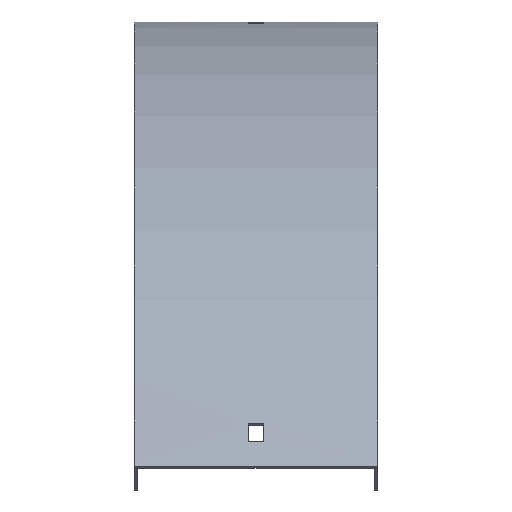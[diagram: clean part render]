
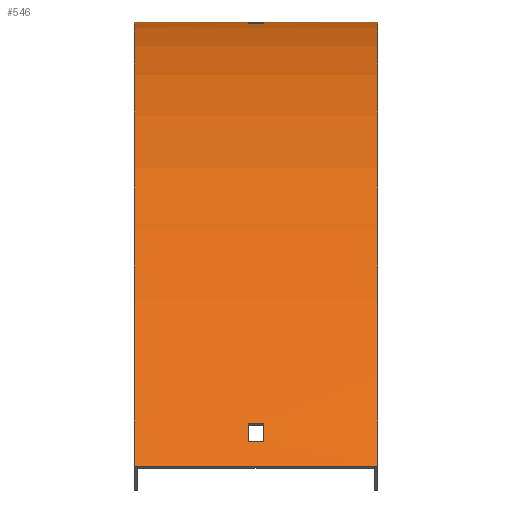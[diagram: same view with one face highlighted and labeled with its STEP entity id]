
A CAD part, top view. The second image highlights one B-rep face of the part: STEP entity #546.
In plain terms, the highlighted cylindrical face has radius 376.5 mm (diameter 753 mm), a partial arc.
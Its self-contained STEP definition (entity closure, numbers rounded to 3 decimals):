
#1 = ORIENTED_EDGE ( 'NONE', *, *, #344, .F. ) ;
#2 = CARTESIAN_POINT ( 'NONE',  ( -51.5, -188.25, 326.059 ) ) ;
#6 = ORIENTED_EDGE ( 'NONE', *, *, #326, .T. ) ;
#8 = EDGE_LOOP ( 'NONE', ( #564, #163, #390, #527 ) ) ;
#13 = LINE ( 'NONE', #524, #100 ) ;
#20 = EDGE_LOOP ( 'NONE', ( #1, #519, #161, #49 ) ) ;
#21 = CARTESIAN_POINT ( 'NONE',  ( 51.5, -0.191, 12. ) ) ;
#23 = AXIS2_PLACEMENT_3D ( 'NONE', #484, #592, #449 ) ;
#31 = LINE ( 'NONE', #21, #221 ) ;
#34 = CARTESIAN_POINT ( 'NONE',  ( 51.5, -188.25, 326.059 ) ) ;
#38 = EDGE_CURVE ( 'NONE', #444, #65, #579, .T. ) ;
#46 = EDGE_CURVE ( 'NONE', #65, #349, #31, .T. ) ;
#47 = EDGE_CURVE ( 'NONE', #292, #468, #13, .T. ) ;
#49 = ORIENTED_EDGE ( 'NONE', *, *, #47, .F. ) ;
#57 = DIRECTION ( 'NONE',  ( 1., 0., 0. ) ) ;
#58 = DIRECTION ( 'NONE',  ( -1., 0., 0. ) ) ;
#63 = CIRCLE ( 'NONE', #342, 376.5 ) ;
#65 = VERTEX_POINT ( 'NONE', #138 ) ;
#86 = AXIS2_PLACEMENT_3D ( 'NONE', #454, #460, #507 ) ;
#100 = VECTOR ( 'NONE', #57, 1000. ) ;
#110 = EDGE_CURVE ( 'NONE', #359, #203, #335, .T. ) ;
#111 = LINE ( 'NONE', #481, #566 ) ;
#113 = FACE_OUTER_BOUND ( 'NONE', #308, .T. ) ;
#115 = CIRCLE ( 'NONE', #228, 376.5 ) ;
#116 = CARTESIAN_POINT ( 'NONE',  ( -51.5, 0., 0. ) ) ;
#118 = CYLINDRICAL_SURFACE ( 'NONE', #183, 376.5 ) ;
#121 = DIRECTION ( 'NONE',  ( -1., 0., 0. ) ) ;
#137 = CIRCLE ( 'NONE', #241, 376.5 ) ;
#138 = CARTESIAN_POINT ( 'NONE',  ( -3.25, -0.191, 12. ) ) ;
#139 = CARTESIAN_POINT ( 'NONE',  ( 3.25, -376.5, 0. ) ) ;
#145 = VECTOR ( 'NONE', #341, 1000. ) ;
#159 = CARTESIAN_POINT ( 'NONE',  ( 51.5, -170.357, 315.051 ) ) ;
#161 = ORIENTED_EDGE ( 'NONE', *, *, #434, .F. ) ;
#163 = ORIENTED_EDGE ( 'NONE', *, *, #38, .T. ) ;
#177 = DIRECTION ( 'NONE',  ( -1., 0., 0. ) ) ;
#180 = VECTOR ( 'NONE', #121, 1000. ) ;
#183 = AXIS2_PLACEMENT_3D ( 'NONE', #586, #177, #354 ) ;
#200 = VERTEX_POINT ( 'NONE', #298 ) ;
#202 = CARTESIAN_POINT ( 'NONE',  ( 51.5, 0., 0. ) ) ;
#203 = VERTEX_POINT ( 'NONE', #2 ) ;
#206 = DIRECTION ( 'NONE',  ( 1., 0., 0. ) ) ;
#207 = ORIENTED_EDGE ( 'NONE', *, *, #367, .F. ) ;
#209 = ORIENTED_EDGE ( 'NONE', *, *, #416, .F. ) ;
#215 = ORIENTED_EDGE ( 'NONE', *, *, #110, .T. ) ;
#221 = VECTOR ( 'NONE', #400, 1000. ) ;
#228 = AXIS2_PLACEMENT_3D ( 'NONE', #414, #318, #459 ) ;
#241 = AXIS2_PLACEMENT_3D ( 'NONE', #272, #206, #352 ) ;
#246 = EDGE_CURVE ( 'NONE', #488, #444, #559, .T. ) ;
#270 = FACE_BOUND ( 'NONE', #20, .T. ) ;
#272 = CARTESIAN_POINT ( 'NONE',  ( -3.25, -376.5, 0. ) ) ;
#274 = CARTESIAN_POINT ( 'NONE',  ( 51.5, -188.25, 326.059 ) ) ;
#287 = EDGE_CURVE ( 'NONE', #570, #200, #465, .T. ) ;
#292 = VERTEX_POINT ( 'NONE', #606 ) ;
#298 = CARTESIAN_POINT ( 'NONE',  ( -3.25, -170.357, 315.051 ) ) ;
#308 = EDGE_LOOP ( 'NONE', ( #215, #207, #209, #6 ) ) ;
#311 = VERTEX_POINT ( 'NONE', #202 ) ;
#318 = DIRECTION ( 'NONE',  ( -1., 0., 0. ) ) ;
#320 = DIRECTION ( 'NONE',  ( -1., 0., 0. ) ) ;
#326 = EDGE_CURVE ( 'NONE', #311, #359, #111, .T. ) ;
#327 = CARTESIAN_POINT ( 'NONE',  ( -3.25, -0.586, 21. ) ) ;
#330 = DIRECTION ( 'NONE',  ( 0., 0., -1. ) ) ;
#332 = CARTESIAN_POINT ( 'NONE',  ( 51.5, -0.586, 21. ) ) ;
#335 = CIRCLE ( 'NONE', #86, 376.5 ) ;
#341 = DIRECTION ( 'NONE',  ( -1., 0., 0. ) ) ;
#342 = AXIS2_PLACEMENT_3D ( 'NONE', #397, #372, #588 ) ;
#344 = EDGE_CURVE ( 'NONE', #200, #292, #137, .T. ) ;
#349 = VERTEX_POINT ( 'NONE', #363 ) ;
#352 = DIRECTION ( 'NONE',  ( 0., 1., 0. ) ) ;
#354 = DIRECTION ( 'NONE',  ( 0., 0., 1. ) ) ;
#359 = VERTEX_POINT ( 'NONE', #116 ) ;
#363 = CARTESIAN_POINT ( 'NONE',  ( 3.25, -0.191, 12. ) ) ;
#367 = EDGE_CURVE ( 'NONE', #423, #203, #538, .T. ) ;
#372 = DIRECTION ( 'NONE',  ( 1., 0., 0. ) ) ;
#390 = ORIENTED_EDGE ( 'NONE', *, *, #46, .T. ) ;
#397 = CARTESIAN_POINT ( 'NONE',  ( 51.5, -376.5, 0. ) ) ;
#400 = DIRECTION ( 'NONE',  ( 1., 0., 0. ) ) ;
#411 = CARTESIAN_POINT ( 'NONE',  ( 3.25, -0.586, 21. ) ) ;
#414 = CARTESIAN_POINT ( 'NONE',  ( 3.25, -376.5, 0. ) ) ;
#416 = EDGE_CURVE ( 'NONE', #311, #423, #63, .T. ) ;
#423 = VERTEX_POINT ( 'NONE', #274 ) ;
#432 = AXIS2_PLACEMENT_3D ( 'NONE', #139, #601, #330 ) ;
#434 = EDGE_CURVE ( 'NONE', #468, #570, #115, .T. ) ;
#444 = VERTEX_POINT ( 'NONE', #327 ) ;
#449 = DIRECTION ( 'NONE',  ( 0., 0., 1. ) ) ;
#453 = CARTESIAN_POINT ( 'NONE',  ( 3.25, -170.357, 315.051 ) ) ;
#454 = CARTESIAN_POINT ( 'NONE',  ( -51.5, -376.5, 0. ) ) ;
#459 = DIRECTION ( 'NONE',  ( 0., 0., 1. ) ) ;
#460 = DIRECTION ( 'NONE',  ( 1., 0., 0. ) ) ;
#465 = LINE ( 'NONE', #159, #145 ) ;
#468 = VERTEX_POINT ( 'NONE', #549 ) ;
#481 = CARTESIAN_POINT ( 'NONE',  ( 51.5, 0., 0. ) ) ;
#484 = CARTESIAN_POINT ( 'NONE',  ( -3.25, -376.5, 0. ) ) ;
#488 = VERTEX_POINT ( 'NONE', #411 ) ;
#491 = FACE_BOUND ( 'NONE', #8, .T. ) ;
#507 = DIRECTION ( 'NONE',  ( 0., 0., -1. ) ) ;
#508 = CIRCLE ( 'NONE', #432, 376.5 ) ;
#510 = VECTOR ( 'NONE', #58, 1000. ) ;
#518 = EDGE_CURVE ( 'NONE', #349, #488, #508, .T. ) ;
#519 = ORIENTED_EDGE ( 'NONE', *, *, #287, .F. ) ;
#524 = CARTESIAN_POINT ( 'NONE',  ( 51.5, -177.953, 319.893 ) ) ;
#527 = ORIENTED_EDGE ( 'NONE', *, *, #518, .T. ) ;
#538 = LINE ( 'NONE', #34, #180 ) ;
#546 = ADVANCED_FACE ( 'NONE', ( #113, #491, #270 ), #118, .T. ) ;
#549 = CARTESIAN_POINT ( 'NONE',  ( 3.25, -177.953, 319.893 ) ) ;
#559 = LINE ( 'NONE', #332, #510 ) ;
#564 = ORIENTED_EDGE ( 'NONE', *, *, #246, .T. ) ;
#566 = VECTOR ( 'NONE', #320, 1000. ) ;
#570 = VERTEX_POINT ( 'NONE', #453 ) ;
#579 = CIRCLE ( 'NONE', #23, 376.5 ) ;
#586 = CARTESIAN_POINT ( 'NONE',  ( 51.5, -376.5, 0. ) ) ;
#588 = DIRECTION ( 'NONE',  ( 0., 0., -1. ) ) ;
#592 = DIRECTION ( 'NONE',  ( -1., 0., 0. ) ) ;
#601 = DIRECTION ( 'NONE',  ( 1., 0., 0. ) ) ;
#606 = CARTESIAN_POINT ( 'NONE',  ( -3.25, -177.953, 319.893 ) ) ;
